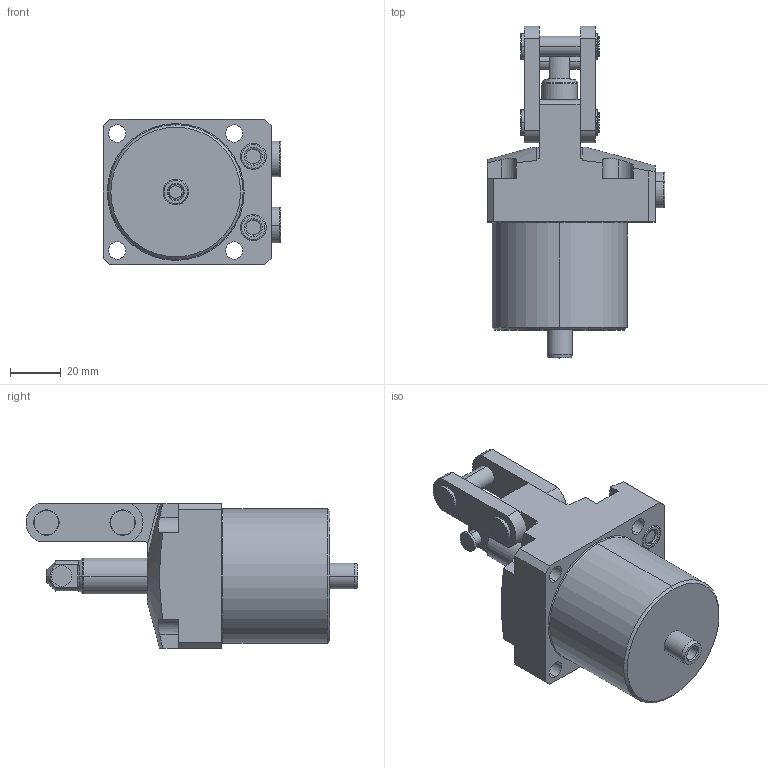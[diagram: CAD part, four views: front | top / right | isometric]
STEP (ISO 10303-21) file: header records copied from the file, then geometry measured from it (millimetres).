
FILE_DESCRIPTION(/* description */ (''),/* implementation_level */ '2;1');
FILE_NAME(/* name */ 'TPC06-LD.stp',/* time_stamp */ '2025-01-05T10:15:36+08:00',/* author */ (''),/* organization */ (''),/* preprocessor_version */ 'ST-DEVELOPER v16.7',/* originating_system */ 'SIEMENS PLM Software NX 12.0',/* authorisation */ '');
FILE_SCHEMA (('AUTOMOTIVE_DESIGN { 1 0 10303 214 3 1 1 1 }'));
Length unit declared in the file: millimetre
Products named in the file (5): TPC06-LD-04; TPC06-LD-03; TPC06-LD-02; TPC06-LD-01; TPC06-LD_stp
Assembly tree (5 placements, depth 2):
  TPC06-LD_stp
    TPC06-LD-01
    TPC06-LD-02
    TPC06-LD-03
    TPC06-LD-04  x2
Bounding box: 69.8 x 130.5 x 57 mm (x, y, z)
Volume: 202828 mm3; surface area: 37947.7 mm2
Topology: 5 solids, 7 shells, 295 faces, 693 edges, 440 vertices
Faces by surface type: cylinder 124, plane 114, torus 34, cone 23
Entity records: 8214 total; most frequent: CARTESIAN_POINT 1525, DIRECTION 1483, ORIENTED_EDGE 1294, EDGE_CURVE 647, AXIS2_PLACEMENT_3D 593, VERTEX_POINT 412, EDGE_LOOP 321, CIRCLE 314
